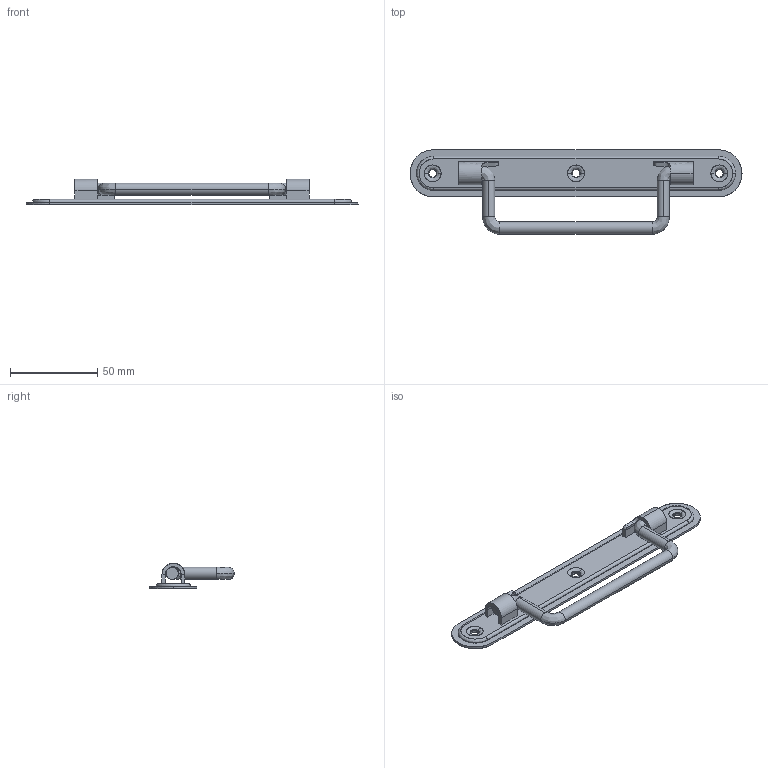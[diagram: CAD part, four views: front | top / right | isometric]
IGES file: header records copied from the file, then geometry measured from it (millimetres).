
Start section: SolidWorks IGES FILE using analytic representation for surfaces
Global section: file name: C:\Documents and Settings\lecoutey\Bureau\POF 310\POF 310.IGS; native system: SolidWorks 2004 by SolidWorks Corporation; preprocessor: Version 5.3; author: lecoutey; date: 050408.140955; units: millimetre
Bounding box: 190 x 48.35 x 14.54 mm (x, y, z)
Surface area: 17821.8 mm2 (no closed solid volume)
Topology: 0 solids, 0 shells, 158 faces, 1892 edges, 1892 vertices
Faces by surface type: bspline 109, revolution 49
